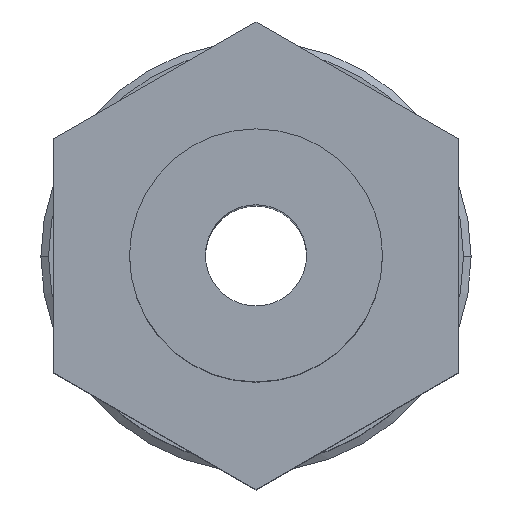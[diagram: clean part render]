
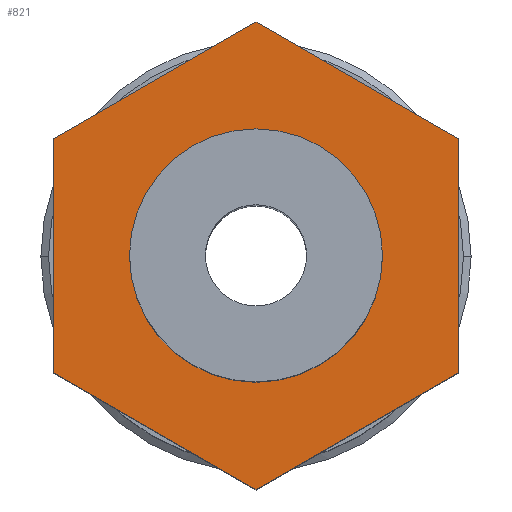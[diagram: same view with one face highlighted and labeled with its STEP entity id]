
A CAD part, top view. The second image highlights one B-rep face of the part: STEP entity #821.
In plain terms, the highlighted planar face has unit normal (0, 0, 1).
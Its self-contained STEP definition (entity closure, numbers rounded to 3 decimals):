
#34 = VECTOR ( 'NONE', #1287, 1000. ) ;
#59 = ORIENTED_EDGE ( 'NONE', *, *, #804, .T. ) ;
#97 = EDGE_CURVE ( 'NONE', #473, #1328, #1432, .T. ) ;
#124 = ORIENTED_EDGE ( 'NONE', *, *, #789, .T. ) ;
#148 = CARTESIAN_POINT ( 'NONE',  ( -2., -3.464, 0. ) ) ;
#170 = CIRCLE ( 'NONE', #729, 2.5 ) ;
#200 = VECTOR ( 'NONE', #404, 1000. ) ;
#211 = CARTESIAN_POINT ( 'NONE',  ( 0., 4.619, 0. ) ) ;
#212 = CARTESIAN_POINT ( 'NONE',  ( -4., 2.309, 0. ) ) ;
#244 = VERTEX_POINT ( 'NONE', #1162 ) ;
#259 = CARTESIAN_POINT ( 'NONE',  ( -2.5, 0., 0. ) ) ;
#272 = VECTOR ( 'NONE', #1333, 1000. ) ;
#380 = FACE_BOUND ( 'NONE', #780, .T. ) ;
#404 = DIRECTION ( 'NONE',  ( 0., 1., 0. ) ) ;
#471 = LINE ( 'NONE', #709, #200 ) ;
#473 = VERTEX_POINT ( 'NONE', #211 ) ;
#556 = DIRECTION ( 'NONE',  ( 0.866, -0.5, 0. ) ) ;
#557 = CARTESIAN_POINT ( 'NONE',  ( 2., 3.464, 0. ) ) ;
#617 = VECTOR ( 'NONE', #1379, 1000. ) ;
#709 = CARTESIAN_POINT ( 'NONE',  ( -4., 0., 0. ) ) ;
#729 = AXIS2_PLACEMENT_3D ( 'NONE', #1040, #1043, #1047 ) ;
#758 = CARTESIAN_POINT ( 'NONE',  ( 4., 2.309, 0. ) ) ;
#780 = EDGE_LOOP ( 'NONE', ( #124, #59 ) ) ;
#788 = EDGE_LOOP ( 'NONE', ( #837, #984, #1480, #922, #898, #790 ) ) ;
#789 = EDGE_CURVE ( 'NONE', #244, #1080, #803, .T. ) ;
#790 = ORIENTED_EDGE ( 'NONE', *, *, #1029, .F. ) ;
#803 = CIRCLE ( 'NONE', #1350, 2.5 ) ;
#804 = EDGE_CURVE ( 'NONE', #1080, #244, #170, .T. ) ;
#807 = CARTESIAN_POINT ( 'NONE',  ( 4., 0., 0. ) ) ;
#817 = EDGE_CURVE ( 'NONE', #870, #1451, #860, .T. ) ;
#821 = ADVANCED_FACE ( 'NONE', ( #380, #1440 ), #1048, .T. ) ;
#837 = ORIENTED_EDGE ( 'NONE', *, *, #1231, .F. ) ;
#860 = LINE ( 'NONE', #1013, #1091 ) ;
#870 = VERTEX_POINT ( 'NONE', #1141 ) ;
#896 = VERTEX_POINT ( 'NONE', #1170 ) ;
#898 = ORIENTED_EDGE ( 'NONE', *, *, #1423, .F. ) ;
#922 = ORIENTED_EDGE ( 'NONE', *, *, #97, .F. ) ;
#937 = AXIS2_PLACEMENT_3D ( 'NONE', #1051, #1060, #1063 ) ;
#984 = ORIENTED_EDGE ( 'NONE', *, *, #817, .F. ) ;
#990 = LINE ( 'NONE', #148, #34 ) ;
#1013 = CARTESIAN_POINT ( 'NONE',  ( 2., -3.464, 0. ) ) ;
#1025 = CARTESIAN_POINT ( 'NONE',  ( 0., 0., 0. ) ) ;
#1027 = DIRECTION ( 'NONE',  ( 0., 0., -1. ) ) ;
#1029 = EDGE_CURVE ( 'NONE', #896, #1079, #471, .T. ) ;
#1031 = DIRECTION ( 'NONE',  ( 1., 0., 0. ) ) ;
#1040 = CARTESIAN_POINT ( 'NONE',  ( 0., 0., 0. ) ) ;
#1043 = DIRECTION ( 'NONE',  ( 0., 0., -1. ) ) ;
#1047 = DIRECTION ( 'NONE',  ( 1., 0., 0. ) ) ;
#1048 = PLANE ( 'NONE',  #937 ) ;
#1051 = CARTESIAN_POINT ( 'NONE',  ( 0., -3., 0. ) ) ;
#1054 = LINE ( 'NONE', #1330, #272 ) ;
#1060 = DIRECTION ( 'NONE',  ( 0., 0., 1. ) ) ;
#1063 = DIRECTION ( 'NONE',  ( 1., 0., 0. ) ) ;
#1079 = VERTEX_POINT ( 'NONE', #212 ) ;
#1080 = VERTEX_POINT ( 'NONE', #259 ) ;
#1091 = VECTOR ( 'NONE', #1118, 1000. ) ;
#1118 = DIRECTION ( 'NONE',  ( -0.866, -0.5, 0. ) ) ;
#1141 = CARTESIAN_POINT ( 'NONE',  ( 4., -2.309, 0. ) ) ;
#1162 = CARTESIAN_POINT ( 'NONE',  ( 2.5, 0., 0. ) ) ;
#1170 = CARTESIAN_POINT ( 'NONE',  ( -4., -2.309, 0. ) ) ;
#1225 = CARTESIAN_POINT ( 'NONE',  ( 0., -4.619, 0. ) ) ;
#1231 = EDGE_CURVE ( 'NONE', #1451, #896, #990, .T. ) ;
#1287 = DIRECTION ( 'NONE',  ( -0.866, 0.5, 0. ) ) ;
#1328 = VERTEX_POINT ( 'NONE', #758 ) ;
#1330 = CARTESIAN_POINT ( 'NONE',  ( -2., 3.464, 0. ) ) ;
#1333 = DIRECTION ( 'NONE',  ( 0.866, 0.5, 0. ) ) ;
#1350 = AXIS2_PLACEMENT_3D ( 'NONE', #1025, #1027, #1031 ) ;
#1354 = LINE ( 'NONE', #807, #617 ) ;
#1379 = DIRECTION ( 'NONE',  ( 0., -1., 0. ) ) ;
#1380 = EDGE_CURVE ( 'NONE', #1328, #870, #1354, .T. ) ;
#1423 = EDGE_CURVE ( 'NONE', #1079, #473, #1054, .T. ) ;
#1432 = LINE ( 'NONE', #557, #1446 ) ;
#1440 = FACE_OUTER_BOUND ( 'NONE', #788, .T. ) ;
#1446 = VECTOR ( 'NONE', #556, 1000. ) ;
#1451 = VERTEX_POINT ( 'NONE', #1225 ) ;
#1480 = ORIENTED_EDGE ( 'NONE', *, *, #1380, .F. ) ;
